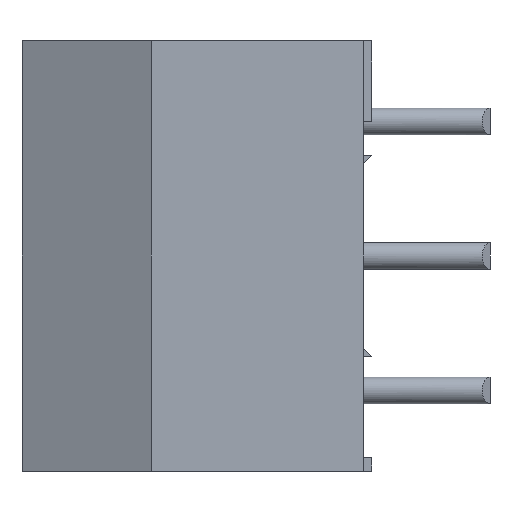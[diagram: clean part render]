
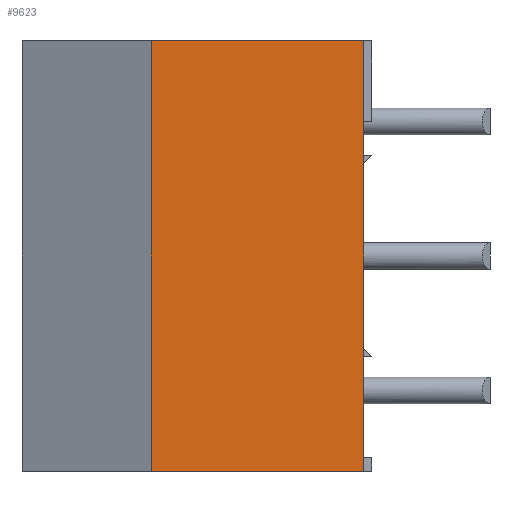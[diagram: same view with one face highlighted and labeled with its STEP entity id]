
A CAD part, left-side view. The second image highlights one B-rep face of the part: STEP entity #9623.
In plain terms, the highlighted planar face has unit normal (-1, 0, 0).
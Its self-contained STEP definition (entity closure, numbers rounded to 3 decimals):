
#2658 = DIRECTION ( 'NONE',  ( 0., 0., -1. ) ) ;
#2659 = CARTESIAN_POINT ( 'NONE',  ( -4.8, 7.9, -8. ) ) ;
#2661 = VECTOR ( 'NONE', #2658, 1000. ) ;
#2662 = LINE ( 'NONE', #2667, #2668 ) ;
#2663 = LINE ( 'NONE', #2659, #2661 ) ;
#2664 = CARTESIAN_POINT ( 'NONE',  ( -4.8, 7.9, 0. ) ) ;
#2665 = DIRECTION ( 'NONE',  ( 0., 1., 0. ) ) ;
#2667 = CARTESIAN_POINT ( 'NONE',  ( -4.8, 6.2, 0. ) ) ;
#2668 = VECTOR ( 'NONE', #2665, 1000. ) ;
#2669 = AXIS2_PLACEMENT_3D ( 'NONE', #2674, #2673, #2670 ) ;
#2670 = DIRECTION ( 'NONE',  ( 0., 0., -1. ) ) ;
#2671 = PLANE ( 'NONE',  #2669 ) ;
#2673 = DIRECTION ( 'NONE',  ( 1., 0., 0. ) ) ;
#2674 = CARTESIAN_POINT ( 'NONE',  ( -4.8, 0., 0. ) ) ;
#2675 = DIRECTION ( 'NONE',  ( 0., 1., 0. ) ) ;
#2676 = CARTESIAN_POINT ( 'NONE',  ( -4.8, 6.2, -16. ) ) ;
#2678 = CARTESIAN_POINT ( 'NONE',  ( -4.8, 7.9, -16. ) ) ;
#2679 = LINE ( 'NONE', #2676, #2680 ) ;
#2680 = VECTOR ( 'NONE', #2675, 1000. ) ;
#2681 = FACE_OUTER_BOUND ( 'NONE', #9619, .T. ) ;
#5363 = VERTEX_POINT ( 'NONE', #9911 ) ;
#5813 = VERTEX_POINT ( 'NONE', #8033 ) ;
#5817 = EDGE_CURVE ( 'NONE', #5813, #5363, #7919, .T. ) ;
#7917 = CARTESIAN_POINT ( 'NONE',  ( -4.8, 0., -8. ) ) ;
#7919 = LINE ( 'NONE', #7917, #8080 ) ;
#8033 = CARTESIAN_POINT ( 'NONE',  ( -4.8, 0., 0. ) ) ;
#8064 = DIRECTION ( 'NONE',  ( 0., 0., -1. ) ) ;
#8080 = VECTOR ( 'NONE', #8064, 1000. ) ;
#9609 = EDGE_CURVE ( 'NONE', #5813, #9610, #2662, .T. ) ;
#9610 = VERTEX_POINT ( 'NONE', #2664 ) ;
#9611 = ORIENTED_EDGE ( 'NONE', *, *, #9612, .T. ) ;
#9612 = EDGE_CURVE ( 'NONE', #9610, #9622, #2663, .T. ) ;
#9617 = ORIENTED_EDGE ( 'NONE', *, *, #5817, .F. ) ;
#9618 = EDGE_CURVE ( 'NONE', #5363, #9622, #2679, .T. ) ;
#9619 = EDGE_LOOP ( 'NONE', ( #9620, #9617, #9621, #9611 ) ) ;
#9620 = ORIENTED_EDGE ( 'NONE', *, *, #9618, .F. ) ;
#9621 = ORIENTED_EDGE ( 'NONE', *, *, #9609, .T. ) ;
#9622 = VERTEX_POINT ( 'NONE', #2678 ) ;
#9623 = ADVANCED_FACE ( 'NONE', ( #2681 ), #2671, .F. ) ;
#9911 = CARTESIAN_POINT ( 'NONE',  ( -4.8, 0., -16. ) ) ;
